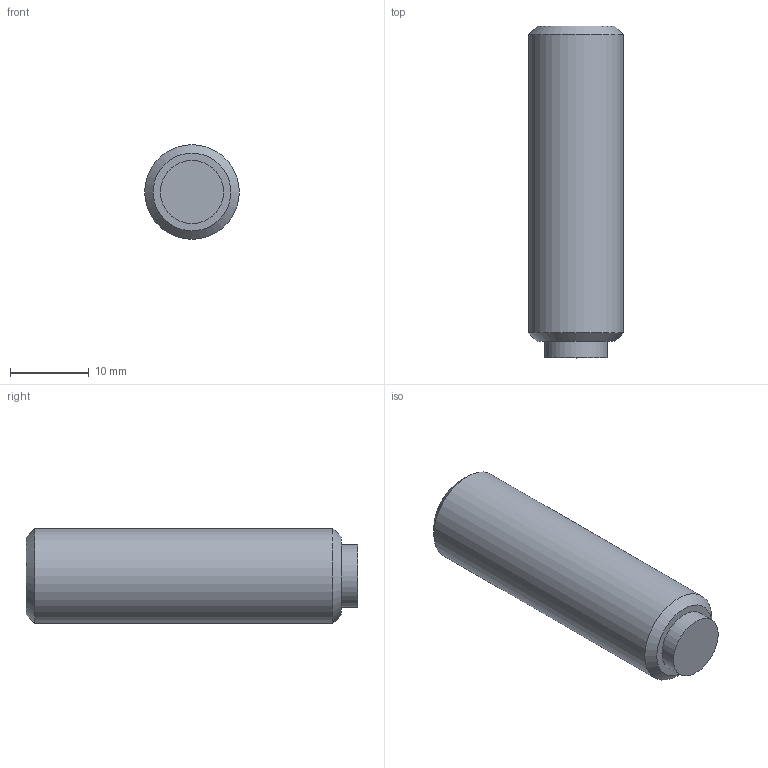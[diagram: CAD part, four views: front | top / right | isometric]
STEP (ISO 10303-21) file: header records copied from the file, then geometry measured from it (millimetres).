
FILE_DESCRIPTION( ( 'STEP AP203' ), '1' );
FILE_NAME( 'C:/Temp/Ganter_Step_05_03_2020/data/3_2/gn913_3/Grub screw GN 913.3-M12-40-KU.stp', '2020-03-13T05:35:41', ( 'License CC BY-ND 4.0' ), ( 'CADENAS' ), ' ', 'PARTsolutions', ' ' );
FILE_SCHEMA( ( 'CONFIG_CONTROL_DESIGN' ) );
Length unit declared in the file: millimetre
Products named in the file (1): _Grub screw GN 913.3-M12-40-KU
Bounding box: 12 x 42.1 x 12 mm (x, y, z)
Volume: 4339.2 mm3; surface area: 1902.8 mm2
Topology: 1 solids, 1 shells, 14 faces, 28 edges, 18 vertices
Faces by surface type: plane 10, cylinder 2, cone 2
Full cylindrical faces by diameter (mm): 8 x1, 12 x1
Entity records: 386 total; most frequent: DIRECTION 60, CARTESIAN_POINT 57, ORIENTED_EDGE 48, EDGE_CURVE 24, AXIS2_PLACEMENT_3D 21, EDGE_LOOP 20, VERTEX_POINT 18, LINE 18
